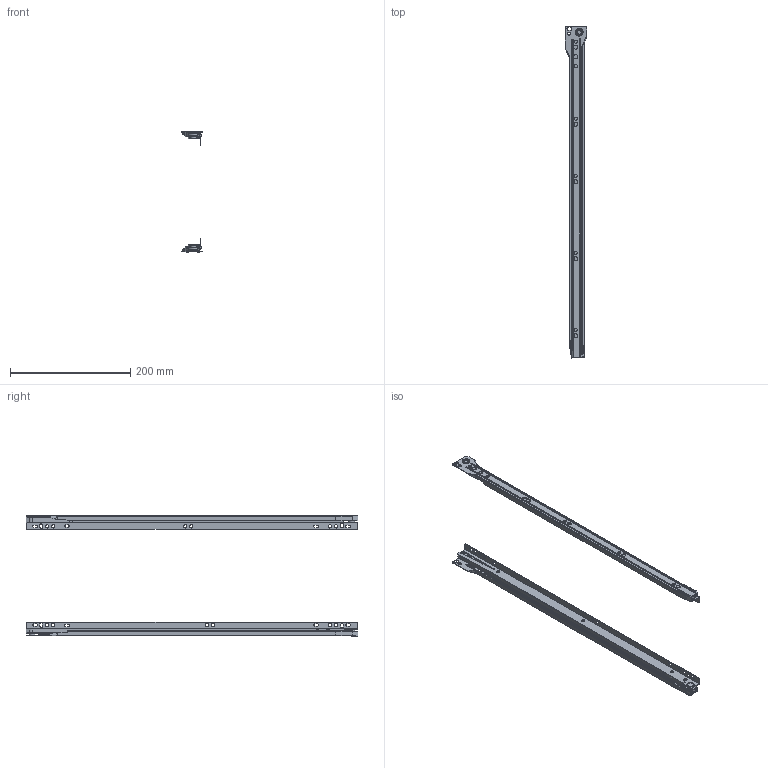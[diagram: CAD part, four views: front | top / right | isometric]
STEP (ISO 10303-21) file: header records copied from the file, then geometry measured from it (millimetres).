
FILE_DESCRIPTION(/* description */ (''),/* implementation_level */ '2;1');
FILE_NAME(/* name */ 'C:\Users\dmitruk\Documents\WORK\НАПРАВЛЯЮЩИЕ\Роликовые\Направляющие роликовая AKS 0.9 mm\Направляющие роликовая AKS 0.9 mm-550.stp',/* time_stamp */ '2022-07-29T15:04:43+03:00',/* author */ ('dmitruk'),/* organization */ (''),/* preprocessor_version */ 'ST-DEVELOPER v16.5',/* originating_system */ 'Autodesk Inventor 2017',/* authorisation */ '');
FILE_SCHEMA (('AUTOMOTIVE_DESIGN { 1 0 10303 214 3 1 1 }'));
Length unit declared in the file: millimetre
Products named in the file (5): Направляющие 
роликовая AKS 0.9 mm; rol_cr_09; rol_cl_09-01; rol_dr_09; rol_dl_09
Assembly tree (4 placements, depth 2):
  Направляющие 
роликовая AKS 0.9 mm
    rol_cr_09
    rol_cl_09-01
    rol_dr_09
    rol_dl_09
Bounding box: 35 x 551.38 x 201 mm (x, y, z)
Volume: 83350.4 mm3; surface area: 168841.4 mm2
Topology: 4 solids, 6 shells, 546 faces, 1415 edges, 888 vertices
Faces by surface type: plane 262, cylinder 209, cone 28, bspline 23, torus 22, sphere 2
Full cylindrical faces by diameter (mm): 5 x10, 5.2 x2, 5.5 x20, 6 x2, 6.1 x5, 6.8 x6, 7.8 x1, 9 x4, 10 x4, 14 x4, 19 x4
Entity records: 17148 total; most frequent: CARTESIAN_POINT 3243, DIRECTION 2867, ORIENTED_EDGE 2632, EDGE_CURVE 1310, AXIS2_PLACEMENT_3D 1039, VERTEX_POINT 888, EDGE_LOOP 798, LINE 789
